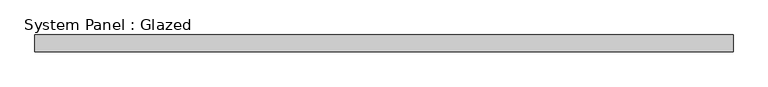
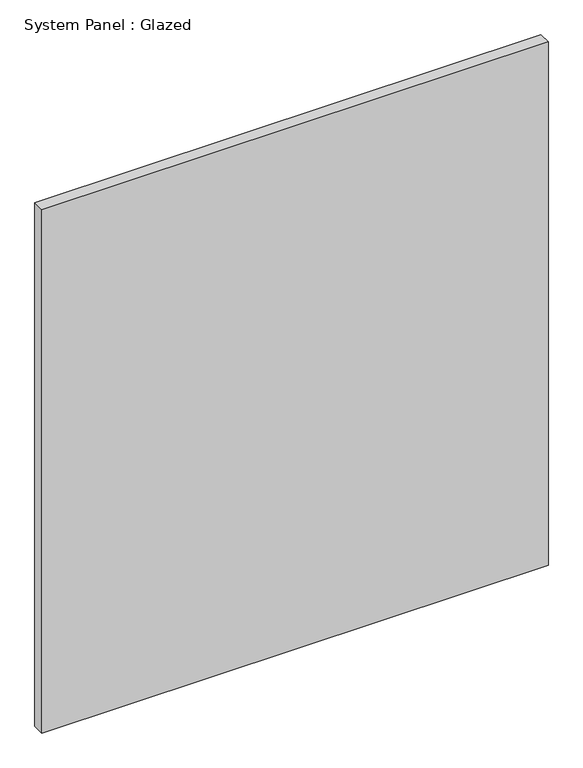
"""IFC4 building model written with IfcOpenShell, lengths in millimetres: plate geometry, System Panel : Glazed."""

from ifc_helpers import new_model, si_unit, origin, origin_with_axes, place, context, project, spatial, polyline, outline, extrude, source, transform, mapped, element, save


def system_panel_glazed_6d5517af(model_context):
    return source(origin(), model_context, "Body", "SweptSolid", [
        extrude(outline(polyline([(528.955, -44.45), (-528.955, -44.45), (-528.955, -19.05), (528.955, -19.05), (528.955, -44.45)])), origin_with_axes(), (0.0, 0.0, 1.0), 1155.7),
    ])


if __name__ == "__main__":
    model = new_model("IFC4")
    model_context = context("Model", 3, world=origin())
    ifc_project = project(units=[si_unit("LENGTHUNIT", "METRE", prefix="MILLI")], contexts=[model_context])
    site = spatial("IfcSite", under=ifc_project)
    building = spatial("IfcBuilding", under=site)
    placement = place(None, origin())
    system_panel_glazed_shape = system_panel_glazed_6d5517af(model_context)
    element("IfcPlate", 1, ObjectType="System Panel : Glazed", at=placement, inside=building, context=model_context, shape_type="MappedRepresentation", body=[
        mapped(system_panel_glazed_shape, transform((0.0, 0.0, 0.0), x_axis=(1.0, 0.0, 0.0), y_axis=(0.0, 1.0, 0.0), z_axis=(0.0, 0.0, 1.0))),
    ])
    save(model, "model.ifc")
